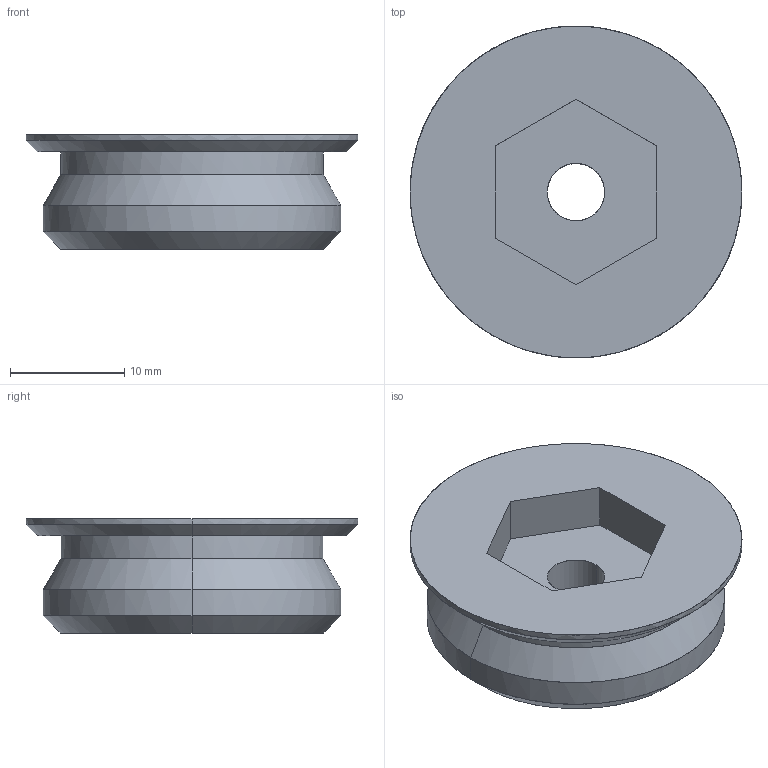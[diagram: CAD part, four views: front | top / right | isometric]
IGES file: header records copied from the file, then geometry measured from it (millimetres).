
Global section: file name: E:\UnigraphicsGraphicData\MISUMI_PRESS-PARTS\IGES\3d_mswzsh26-10_00505_r00.igs; native system: NX V5.0; preprocessor: UGS NX IGES V5.0; author: MISUMI; date: 20110105.161532; units: millimetre
Bounding box: 29 x 29 x 10 mm (x, y, z)
Surface area: 2387.4 mm2 (no closed solid volume)
Topology: 0 solids, 0 shells, 24 faces, 156 edges, 156 vertices
Faces by surface type: bspline 24
